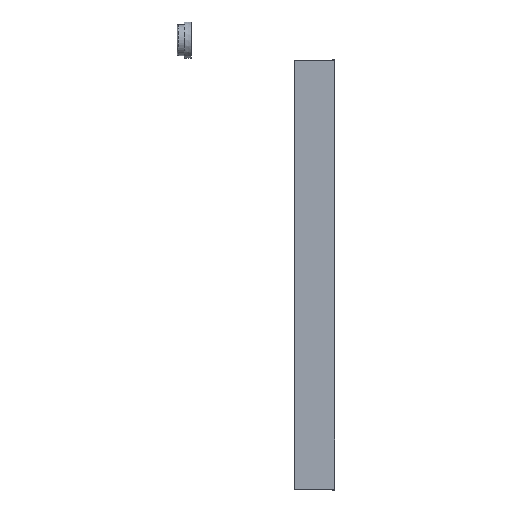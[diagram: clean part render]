
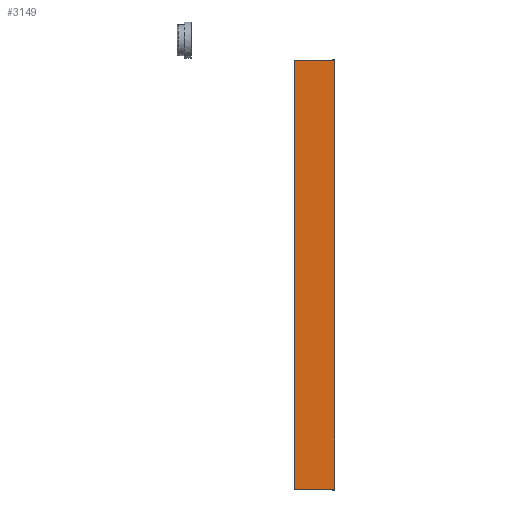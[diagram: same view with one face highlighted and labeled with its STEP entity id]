
A CAD part, left-side view. The second image highlights one B-rep face of the part: STEP entity #3149.
In plain terms, the highlighted planar face has unit normal (-1, 0, 0).
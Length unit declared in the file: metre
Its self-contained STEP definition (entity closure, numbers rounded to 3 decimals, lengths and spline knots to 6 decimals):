
#165=PLANE('',#3483);
#320=FACE_OUTER_BOUND('',#511,.T.);
#511=EDGE_LOOP('',(#2717,#2718,#2719,#2720));
#955=LINE('',#5157,#1252);
#977=LINE('',#5250,#1274);
#979=LINE('',#5257,#1276);
#980=LINE('',#5258,#1277);
#1252=VECTOR('',#4213,0.1094);
#1274=VECTOR('',#4281,0.1094);
#1276=VECTOR('',#4289,1.184);
#1277=VECTOR('',#4290,1.184);
#1537=VERTEX_POINT('',#5154);
#1538=VERTEX_POINT('',#5156);
#1573=VERTEX_POINT('',#5247);
#1574=VERTEX_POINT('',#5249);
#1933=EDGE_CURVE('',#1537,#1538,#955,.T.);
#1977=EDGE_CURVE('',#1574,#1573,#977,.T.);
#1981=EDGE_CURVE('',#1537,#1574,#979,.T.);
#1982=EDGE_CURVE('',#1573,#1538,#980,.F.);
#2717=ORIENTED_EDGE('',*,*,#1933,.F.);
#2718=ORIENTED_EDGE('',*,*,#1981,.T.);
#2719=ORIENTED_EDGE('',*,*,#1977,.T.);
#2720=ORIENTED_EDGE('',*,*,#1982,.T.);
#3149=ADVANCED_FACE('',(#320),#165,.F.);
#3483=AXIS2_PLACEMENT_3D('',#5256,#4287,#4288);
#4213=DIRECTION('',(0.,1.,0.));
#4281=DIRECTION('',(0.,1.,0.));
#4287=DIRECTION('center_axis',(1.,0.,0.));
#4288=DIRECTION('ref_axis',(0.,0.,-1.));
#4289=DIRECTION('',(0.,0.,1.));
#4290=DIRECTION('',(0.,0.,1.));
#5154=CARTESIAN_POINT('',(-0.0225,0.0003,-0.592));
#5156=CARTESIAN_POINT('',(-0.0225,0.1097,-0.592));
#5157=CARTESIAN_POINT('',(-0.0225,0.0003,-0.592));
#5247=CARTESIAN_POINT('',(-0.0225,0.1097,0.592));
#5249=CARTESIAN_POINT('',(-0.0225,0.0003,0.592));
#5250=CARTESIAN_POINT('',(-0.0225,0.0003,0.592));
#5256=CARTESIAN_POINT('Origin',(-0.0225,0.,-0.592));
#5257=CARTESIAN_POINT('',(-0.0225,0.0003,-0.592));
#5258=CARTESIAN_POINT('',(-0.0225,0.1097,-0.592));
